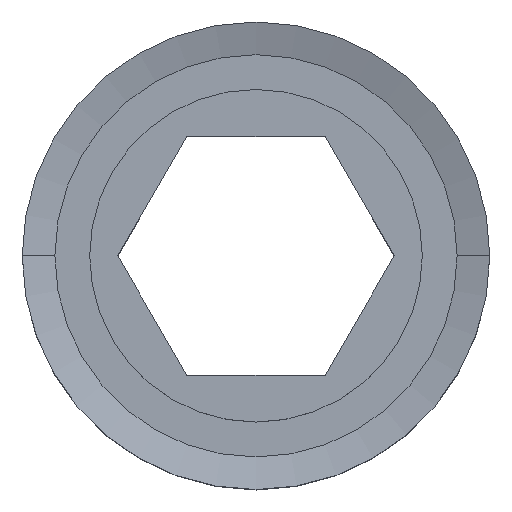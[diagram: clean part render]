
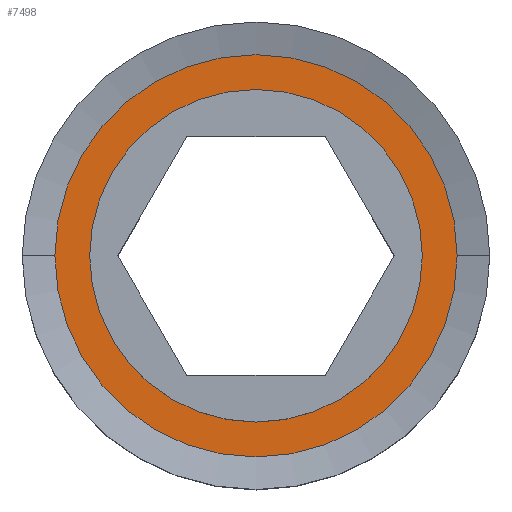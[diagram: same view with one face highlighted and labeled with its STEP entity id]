
A CAD part, top view. The second image highlights one B-rep face of the part: STEP entity #7498.
In plain terms, the highlighted planar face has unit normal (0, 0, 1).
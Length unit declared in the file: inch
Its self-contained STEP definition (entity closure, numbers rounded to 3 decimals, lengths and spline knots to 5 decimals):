
#25 = EDGE_CURVE ( 'NONE', #4935, #4931, #2228, .T. ) ;
#77 = EDGE_CURVE ( 'NONE', #4931, #4935, #7273, .T. ) ;
#158 = FACE_BOUND ( 'NONE', #3741, .T. ) ;
#318 = ORIENTED_EDGE ( 'NONE', *, *, #4606, .F. ) ;
#762 = AXIS2_PLACEMENT_3D ( 'NONE', #8086, #5365, #1904 ) ;
#856 = EDGE_LOOP ( 'NONE', ( #318, #4919 ) ) ;
#1295 = CARTESIAN_POINT ( 'NONE',  ( -0.42331, 0., 0.22969 ) ) ;
#1360 = CARTESIAN_POINT ( 'NONE',  ( 0.42331, 0., 0.22969 ) ) ;
#1516 = CIRCLE ( 'NONE', #1574, 0.42331 ) ;
#1574 = AXIS2_PLACEMENT_3D ( 'NONE', #5821, #5173, #1794 ) ;
#1730 = FACE_OUTER_BOUND ( 'NONE', #856, .T. ) ;
#1794 = DIRECTION ( 'NONE',  ( -1., 0., 0. ) ) ;
#1904 = DIRECTION ( 'NONE',  ( 1., 0., 0. ) ) ;
#1931 = AXIS2_PLACEMENT_3D ( 'NONE', #6546, #4571, #2548 ) ;
#2042 = CARTESIAN_POINT ( 'NONE',  ( 0., 0., 0.22969 ) ) ;
#2228 = CIRCLE ( 'NONE', #1931, 0.35 ) ;
#2548 = DIRECTION ( 'NONE',  ( 1., 0., 0. ) ) ;
#3741 = EDGE_LOOP ( 'NONE', ( #8099, #8548 ) ) ;
#3913 = CARTESIAN_POINT ( 'NONE',  ( 0., 0., 0.22969 ) ) ;
#4273 = VERTEX_POINT ( 'NONE', #1360 ) ;
#4392 = CARTESIAN_POINT ( 'NONE',  ( -0.35, 0., 0.22969 ) ) ;
#4509 = DIRECTION ( 'NONE',  ( 0., 0., -1. ) ) ;
#4571 = DIRECTION ( 'NONE',  ( 0., 0., -1. ) ) ;
#4606 = EDGE_CURVE ( 'NONE', #4273, #4696, #1516, .T. ) ;
#4696 = VERTEX_POINT ( 'NONE', #1295 ) ;
#4919 = ORIENTED_EDGE ( 'NONE', *, *, #7932, .F. ) ;
#4931 = VERTEX_POINT ( 'NONE', #4392 ) ;
#4935 = VERTEX_POINT ( 'NONE', #5743 ) ;
#4970 = AXIS2_PLACEMENT_3D ( 'NONE', #2042, #6751, #5965 ) ;
#5173 = DIRECTION ( 'NONE',  ( 0., 0., -1. ) ) ;
#5365 = DIRECTION ( 'NONE',  ( 0., 0., 1. ) ) ;
#5743 = CARTESIAN_POINT ( 'NONE',  ( 0.35, 0., 0.22969 ) ) ;
#5821 = CARTESIAN_POINT ( 'NONE',  ( 0., 0., 0.22969 ) ) ;
#5965 = DIRECTION ( 'NONE',  ( 1., 0., 0. ) ) ;
#6057 = PLANE ( 'NONE',  #762 ) ;
#6143 = CIRCLE ( 'NONE', #8132, 0.42331 ) ;
#6546 = CARTESIAN_POINT ( 'NONE',  ( 0., 0., 0.22969 ) ) ;
#6751 = DIRECTION ( 'NONE',  ( 0., 0., -1. ) ) ;
#7273 = CIRCLE ( 'NONE', #4970, 0.35 ) ;
#7498 = ADVANCED_FACE ( 'NONE', ( #158, #1730 ), #6057, .T. ) ;
#7932 = EDGE_CURVE ( 'NONE', #4696, #4273, #6143, .T. ) ;
#8086 = CARTESIAN_POINT ( 'NONE',  ( 0., 0.42331, 0.22969 ) ) ;
#8099 = ORIENTED_EDGE ( 'NONE', *, *, #25, .T. ) ;
#8132 = AXIS2_PLACEMENT_3D ( 'NONE', #3913, #4509, #8662 ) ;
#8548 = ORIENTED_EDGE ( 'NONE', *, *, #77, .T. ) ;
#8662 = DIRECTION ( 'NONE',  ( -1., 0., 0. ) ) ;
